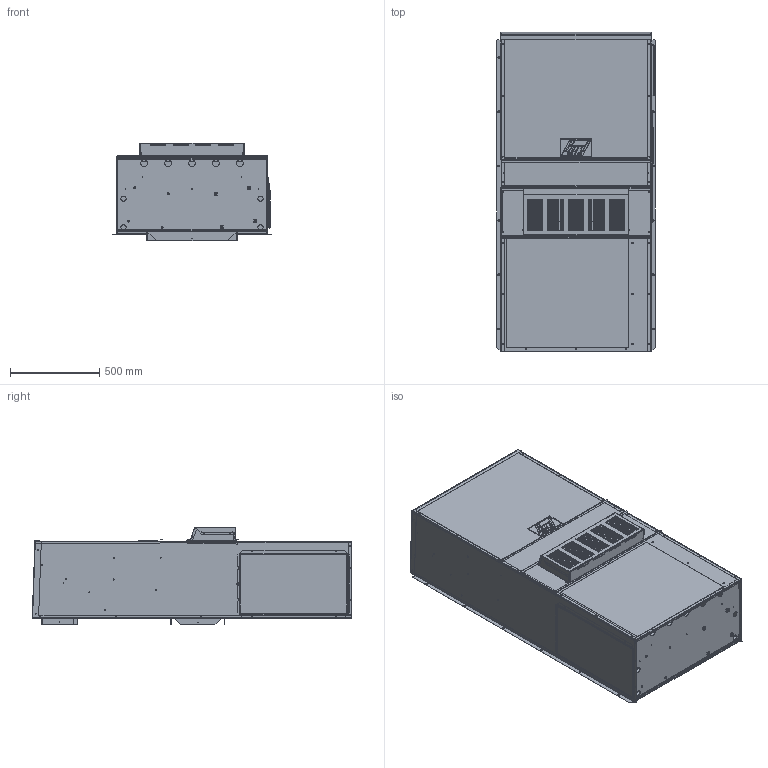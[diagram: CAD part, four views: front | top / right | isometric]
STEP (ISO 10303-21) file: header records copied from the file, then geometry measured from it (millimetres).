
FILE_DESCRIPTION (( 'STEP AP203' ), '1' );
FILE_NAME ('STEP_200_3.STEP', '2016-06-16T15:25:43', ( '' ), ( '' ), 'SwSTEP 2.0', 'SolidWorks 2016', '' );
FILE_SCHEMA (( 'CONFIG_CONTROL_DESIGN' ));
Products named in the file (1): STEP_200_3
Bounding box: 888.56 x 1792.17 x 547.35 mm (x, y, z)
Surface area: 14481092.4 mm2 (no closed solid volume)
Topology: 0 solids, 58 shells, 3636 faces, 9759 edges, 6311 vertices
Faces by surface type: plane 1648, cylinder 1141, bspline 769, cone 70, torus 4, sphere 4
Entity records: 138248 total; most frequent: CARTESIAN_POINT 48063, ORIENTED_EDGE 19434, DIRECTION 17914, EDGE_CURVE 9739, VERTEX_POINT 6309, AXIS2_PLACEMENT_3D 6206, VECTOR 5502, LINE 5502
